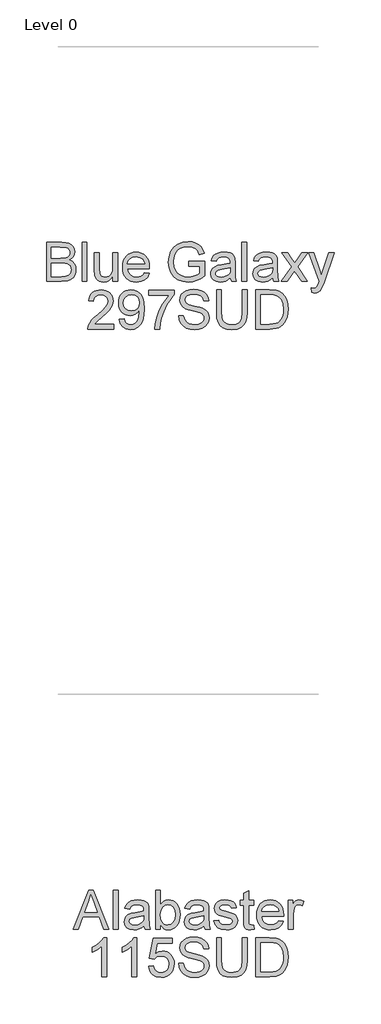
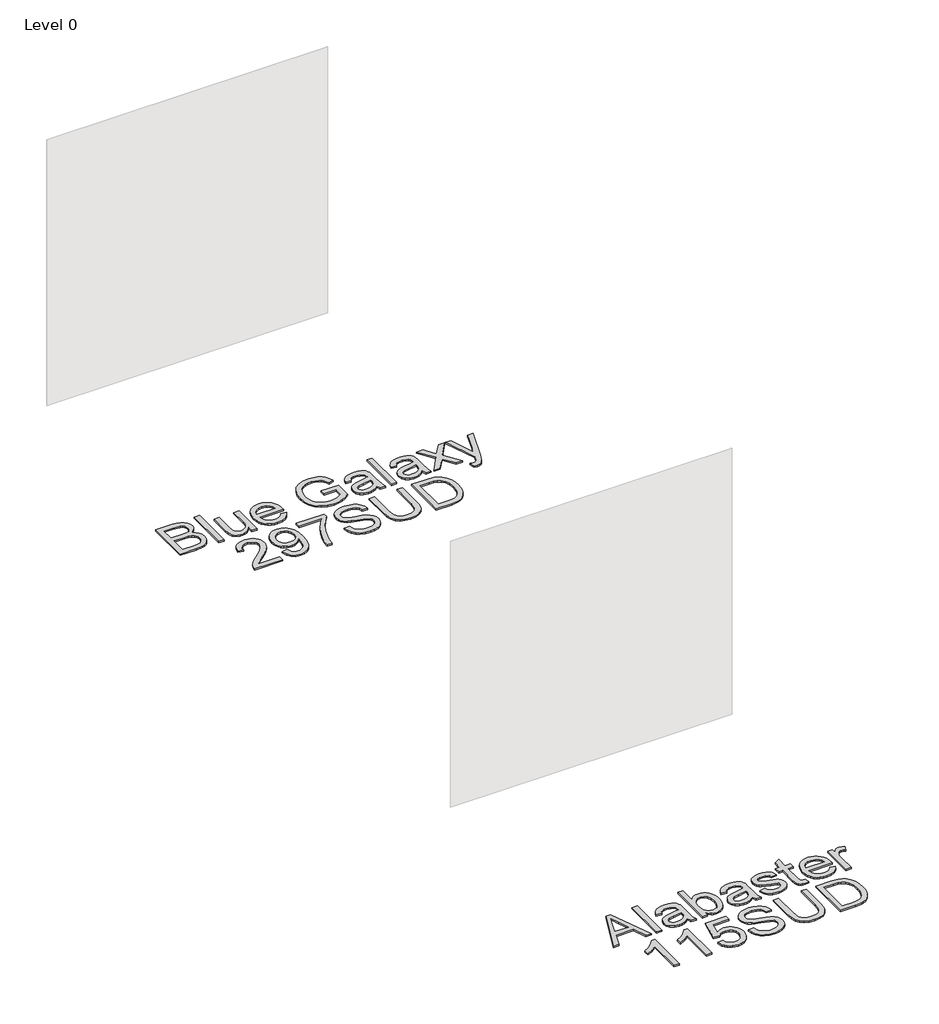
# One storey, part 3 of 37: 2 proxies.
"""IFC4 building model written with IfcOpenShell, lengths in millimetres."""

import ifcopenshell
import ifcopenshell.guid

model = None  # the IFC model being written
_history = None  # IfcOwnerHistory: only IFC2X3 demands one
_inside = {}  # id of a spatial element -> (the spatial element, [elements in it])
_under = {}  # id of a project, library or spatial element -> (it, [spatial elements below it])
_declared = {}  # id of a project -> (the project, [libraries it declares])
_typed = {}  # id of a type object -> (the type object, [elements of that type])
_made_of = {}  # id of a material, layer set ... -> (it, [elements and type objects made of it])


def new_model(schema):
    """Start an empty IFC model of exactly this schema.

    Asked for "IFC4X3", IfcOpenShell would pick the latest addendum, in which some entities
    have other attributes; the version numbers below select the first issue.
    IFC2X3 requires an IfcOwnerHistory on every rooted entity: one is made here for all.
    """
    global model, _history
    if schema == "IFC4X3":
        model = ifcopenshell.file(schema_version=(4, 3, 0, 0))
    else:
        model = ifcopenshell.file(schema=schema)
    _inside.clear()
    _under.clear()
    _declared.clear()
    _typed.clear()
    _made_of.clear()
    _history = None
    if model.schema == "IFC2X3":
        org = make("IfcOrganization", Name="unknown")
        user = make(
            "IfcPersonAndOrganization",
            ThePerson=make("IfcPerson", FamilyName="unknown"),
            TheOrganization=org,
        )
        app = make(
            "IfcApplication",
            ApplicationDeveloper=org,
            Version="unknown",
            ApplicationFullName="unknown",
            ApplicationIdentifier="unknown",
        )
        _history = make(
            "IfcOwnerHistory",
            OwningUser=user,
            OwningApplication=app,
            ChangeAction="ADDED",
            CreationDate=0,
        )
    return model


def make(cls, **values):
    """One entity of the class cls with the attributes given. An attribute that is None is left unset."""
    return model.create_entity(
        cls, **{name: value for name, value in values.items() if value is not None}
    )


def rooted(cls, **values):
    """An entity with a GlobalId (a new one), such as an element, a storey or a relation."""
    return make(cls, GlobalId=ifcopenshell.guid.new(), OwnerHistory=_history, **values)


def si_unit(unit_type, name, prefix=None):
    """IfcSIUnit, for example si_unit("LENGTHUNIT", "METRE", prefix="MILLI")."""
    return make("IfcSIUnit", UnitType=unit_type, Prefix=prefix, Name=name)


def assignment(units):
    """IfcUnitAssignment: the units of a project."""
    return None if units is None else make("IfcUnitAssignment", Units=units)


def point(xyz):
    """IfcCartesianPoint."""
    return None if xyz is None else make("IfcCartesianPoint", Coordinates=xyz)


def direction(xyz):
    """IfcDirection."""
    return None if xyz is None else make("IfcDirection", DirectionRatios=xyz)


def frame(location, z_axis=None, x_axis=None):
    """IfcAxis2Placement3D, a coordinate frame: its origin and axes. An axis left out is left unset."""
    return make(
        "IfcAxis2Placement3D",
        Location=point(location),
        Axis=direction(z_axis),
        RefDirection=direction(x_axis),
    )


def origin():
    """The frame at (0, 0, 0) with its axes left unset."""
    return frame((0.0, 0.0, 0.0))


def origin_with_axes():
    """The frame at (0, 0, 0) with the z axis (0, 0, 1) and the x axis (1, 0, 0) written out."""
    return frame((0.0, 0.0, 0.0), z_axis=(0.0, 0.0, 1.0), x_axis=(1.0, 0.0, 0.0))


def place(relative_to, where):
    """IfcLocalPlacement: puts the frame where relative to a parent placement (None: the world)."""
    return make(
        "IfcLocalPlacement", PlacementRelTo=relative_to, RelativePlacement=where
    )


def context(
    kind, dimensions, precision=None, world=None, true_north=None, identifier=None
):
    """IfcGeometricRepresentationContext, for example the 3D "Model" context."""
    return make(
        "IfcGeometricRepresentationContext",
        ContextIdentifier=identifier,
        ContextType=kind,
        CoordinateSpaceDimension=dimensions,
        Precision=precision,
        WorldCoordinateSystem=world,
        TrueNorth=true_north,
    )


def project(units=None, contexts=None):
    """IfcProject with its units and contexts."""
    return rooted(
        "IfcProject",
        Name="project",
        RepresentationContexts=contexts,
        UnitsInContext=assignment(units),
    )


def spatial(cls, under=None, at=None, **own):
    """A site, building, storey or space (cls), placed at a placement, below another one or the project."""
    s = rooted(cls, ObjectPlacement=at, **own)
    if under is not None:
        _under.setdefault(under.id(), (under, []))[1].append(s)
    return s


def polyline(points):
    """IfcPolyline through the points."""
    return make("IfcPolyline", Points=[point(p) for p in points])


def outline(outer, holes=None, kind="AREA"):
    """IfcArbitraryClosedProfileDef: a profile drawn as a closed curve; with holes, ...WithVoids."""
    if holes is None:
        return make("IfcArbitraryClosedProfileDef", ProfileType=kind, OuterCurve=outer)
    return make(
        "IfcArbitraryProfileDefWithVoids",
        ProfileType=kind,
        OuterCurve=outer,
        InnerCurves=holes,
    )


def extrude(swept, where, along, depth):
    """IfcExtrudedAreaSolid: the profile swept, set in the frame where, extruded along a direction by depth."""
    return make(
        "IfcExtrudedAreaSolid",
        SweptArea=swept,
        Position=where,
        ExtrudedDirection=direction(along),
        Depth=depth,
    )


def shape(context_of_items, identifier, shape_type, items):
    """IfcShapeRepresentation: the items that make up one representation, for example the "Body"."""
    return make(
        "IfcShapeRepresentation",
        ContextOfItems=context_of_items,
        RepresentationIdentifier=identifier,
        RepresentationType=shape_type,
        Items=items,
    )


def made_of(thing, what):
    """Note that an element or type object is made of a material, layer set ...; save() writes the relation."""
    if what is not None:
        _made_of.setdefault(what.id(), (what, []))[1].append(thing)
    return thing


def element(
    cls,
    number,
    at=None,
    inside=None,
    cuts=None,
    type_object=None,
    material=None,
    context=None,
    identifier="Body",
    shape_type=None,
    held_by="IfcProductDefinitionShape",
    body=None,
    shapes=None,
    **own,
):
    """One element of the class cls, such as IfcWall. Its Tag is "e" and its number.

    at: its placement. inside: the storey or other place that contains it. cuts: it is an
    opening in that element (IfcRelVoidsElement). A single representation is given by context,
    identifier, shape_type and body (its items); several are given by shapes. held_by: the class
    of the entity that holds the representations. save() writes the other relations.
    """
    e = rooted(cls, Tag="e%d" % number, ObjectPlacement=at, **own)
    if body is not None:
        shapes = [shape(context, identifier, shape_type, body)]
    if shapes is not None:
        e.Representation = make(held_by, Representations=shapes)
    if inside is not None:
        _inside.setdefault(inside.id(), (inside, []))[1].append(e)
    if cuts is not None:
        rooted(
            "IfcRelVoidsElement", RelatingBuildingElement=cuts, RelatedOpeningElement=e
        )
    if type_object is not None:
        _typed.setdefault(type_object.id(), (type_object, []))[1].append(e)
    return made_of(e, material)


def aggregate(whole, parts):
    """IfcRelAggregates: a whole, such as a stair, and the parts it consists of."""
    return rooted("IfcRelAggregates", RelatingObject=whole, RelatedObjects=parts)


def save(model, path):
    """Write the relations noted so far, then the file.

    IfcRelAggregates (storeys below a building ...), IfcRelContainedInSpatialStructure (elements
    in a storey), IfcRelDefinesByType, IfcRelAssociatesMaterial and IfcRelDeclares: one each for
    every whole, place, type object, material and project.
    """
    for whole, parts in _under.values():
        aggregate(whole, parts)
    for where, things in _inside.values():
        rooted(
            "IfcRelContainedInSpatialStructure",
            RelatedElements=things,
            RelatingStructure=where,
        )
    for kind, things in _typed.values():
        rooted("IfcRelDefinesByType", RelatedObjects=things, RelatingType=kind)
    for what, things in _made_of.values():
        rooted("IfcRelAssociatesMaterial", RelatedObjects=things, RelatingMaterial=what)
    for by, libraries in _declared.values():
        rooted("IfcRelDeclares", RelatingContext=by, RelatedDefinitions=libraries)
    model.write(path)


model = new_model("IFC4")

# Units and contexts
model_context = context("Model", 3, world=origin())
ifc_project = project(units=[si_unit("LENGTHUNIT", "METRE", prefix="MILLI")], contexts=[model_context])

# Site, building, storey
site = spatial("IfcSite", under=ifc_project)
building = spatial("IfcBuilding", under=site)
storey = spatial("IfcBuildingStorey", under=building, Name="Level 0", Elevation=0.0)

# Proxies
placement = place(None, origin())
element("IfcBuildingElementProxy", 1, Name="300mm Arial", ObjectType="300mm Arial", at=placement, inside=storey, context=model_context, shape_type="SweptSolid", body=[
    extrude(outline(polyline([(-10540.7659844, -41912.860494), (-10540.7659844, -41611.4915635), (-10425.7660727, -41611.4915635), (-10394.1374182, -41613.7080526), (-10369.4433393, -41620.3575196), (-10350.5158106, -41631.6055116), (-10336.1868069, -41647.6175755), (-10327.164501, -41666.4531336), (-10324.1570657, -41686.1716086), (-10326.6862544, -41704.317388), (-10334.2738205, -41721.3779155), (-10346.9749464, -41736.3047274), (-10364.8448143, -41748.0493601), (-10343.4984616, -41759.1961846), (-10327.725521, -41776.1555446), (-10317.9858452, -41797.8054), (-10314.7392866, -41823.0237108), (-10316.9557756, -41844.0389697), (-10323.6052427, -41863.5275184), (-10333.5288595, -41880.1006023), (-10345.5677978, -41892.3694668), (-10360.3106687, -41901.253817), (-10378.3460835, -41907.6733578), (-10426.6489895, -41912.860494), (-10540.7659844, -41912.860494)]), holes=[polyline([(-10503.0948681, -41733.9226915), (-10434.300935, -41733.9226915), (-10394.1282211, -41730.68533), (-10380.0659319, -41725.1027207), (-10369.9583741, -41716.7426024), (-10363.86073, -41705.7337336), (-10361.828182, -41692.2048733), (-10363.7227742, -41679.071486), (-10369.4065511, -41667.630356), (-10378.621995, -41658.7000206), (-10391.1115888, -41653.0990172), (-10439.5248593, -41649.1626798), (-10503.0948681, -41649.1626798), (-10503.0948681, -41733.9226915)]), polyline([(-10503.0948681, -41875.1893777), (-10425.8396491, -41875.1893777), (-10397.8806175, -41873.7178497), (-10374.2258052, -41865.5140812), (-10358.5540322, -41848.7754504), (-10353.9463102, -41836.9480443), (-10352.4104029, -41823.3915928), (-10354.2130247, -41807.6462434), (-10359.62089, -41794.1081859), (-10369.0662602, -41783.5223815), (-10382.9813967, -41776.6337912), (-10402.6906746, -41772.8538037), (-10429.5184691, -41771.5938078), (-10503.0948681, -41771.5938078), (-10503.0948681, -41875.1893777)])]), origin_with_axes(), (0.0, 0.0, 1.0), 10.0),
    extrude(outline(polyline([(-10267.6503912, -41912.860494), (-10267.6503912, -41611.4915635), (-10229.9792749, -41611.4915635), (-10229.9792749, -41912.860494), (-10267.6503912, -41912.860494)])), origin_with_axes(), (0.0, 0.0, 1.0), 10.0),
    extrude(outline(polyline([(-10032.2059143, -41912.860494), (-10032.2059143, -41874.8214957), (-10045.8359422, -41893.5236966), (-10061.7100503, -41906.8824116), (-10079.8282386, -41914.8976405), (-10100.190507, -41917.5693835), (-10118.5386215, -41915.6931853), (-10135.6175431, -41910.0645908), (-10149.9465468, -41901.6033049), (-10160.0449076, -41891.2290327), (-10171.2653085, -41863.4907302), (-10173.4726004, -41828.4683643), (-10173.4726004, -41691.5426857), (-10135.8014841, -41691.5426857), (-10135.8014841, -41810.7364521), (-10133.5206158, -41849.1433324), (-10128.029977, -41861.9548229), (-10118.6213949, -41871.6944987), (-10105.9202691, -41877.8473251), (-10090.5519987, -41879.8982672), (-10074.3008116, -41877.8013398), (-10059.0980881, -41871.5105577), (-10046.5625091, -41861.605335), (-10038.3127554, -41848.6650858), (-10033.7326246, -41830.9423707), (-10032.2059143, -41806.6897502), (-10032.2059143, -41691.5426857), (-9994.534798, -41691.5426857), (-9994.534798, -41912.860494), (-10032.2059143, -41912.860494)])), origin_with_axes(), (0.0, 0.0, 1.0), 10.0),
    extrude(outline(polyline([(-9787.7851167, -41846.9360404), (-9750.8497644, -41851.64493), (-9764.1578955, -41879.4752029), (-9785.3938837, -41900.2789297), (-9814.0794823, -41913.2467701), (-9849.7364447, -41917.5693835), (-9873.1107469, -41915.7046817), (-9893.9374664, -41910.1105761), (-9912.216603, -41900.7870668), (-9927.9481568, -41887.7341537), (-9940.598699, -41871.3151204), (-9949.6348005, -41851.8932503), (-9955.0564614, -41829.4685435), (-9956.8636817, -41804.0409998), (-9955.0380673, -41777.7512327), (-9949.5612241, -41754.5792656), (-9940.4331521, -41734.5250983), (-9927.6538513, -41717.5887309), (-9911.9636842, -41704.133447), (-9894.1030133, -41694.5225298), (-9874.0718387, -41688.7559796), (-9851.8701602, -41686.8337961), (-9830.3835525, -41688.751381), (-9810.9524853, -41694.5041357), (-9793.5769588, -41704.0920602), (-9778.256973, -41717.5151545), (-9765.7512844, -41734.4147337), (-9756.8186497, -41754.4321128), (-9751.4590689, -41777.5672917), (-9749.672542, -41803.8202706), (-9749.8932712, -41813.9738137), (-9919.1925654, -41813.9738137), (-9912.671857, -41842.1719686), (-9897.5243158, -41862.902119), (-9875.6629283, -41875.6492302), (-9849.0006807, -41879.8982672), (-9828.9511119, -41877.9300985), (-9812.0653284, -41872.0255925), (-9798.3433299, -41861.8168672), (-9787.7851167, -41846.9360404)]), holes=[polyline([(-9919.1925654, -41776.3026974), (-9787.3436583, -41776.3026974), (-9792.4388239, -41756.4002814), (-9802.4268201, -41742.1632482), (-9824.3893752, -41728.9194964), (-9852.017313, -41724.5049125), (-9877.4103678, -41728.0273826), (-9898.4072326, -41738.5947929), (-9913.0029508, -41755.0667092), (-9919.1925654, -41776.3026974)])]), origin_with_axes(), (0.0, 0.0, 1.0), 10.0),
    extrude(outline(polyline([(-9448.3036115, -41795.1382555), (-9448.3036115, -41757.4671392), (-9325.8724835, -41757.4671392), (-9325.8724835, -41870.1126061), (-9355.6249399, -41890.8059684), (-9386.3154954, -41905.6500069), (-9417.8705735, -41914.5895394), (-9450.2165979, -41917.5693835), (-9492.4770421, -41912.8329028), (-9530.6723903, -41898.6234608), (-9562.4022123, -41875.437698), (-9585.2660783, -41843.7722553), (-9599.0892443, -41805.7884393), (-9603.6969663, -41763.6475567), (-9599.1076384, -41721.2031715), (-9585.3396547, -41681.7202364), (-9562.9632324, -41648.6016598), (-9532.5485884, -41625.2503502), (-9495.5028715, -41611.399593), (-9453.2332303, -41606.782674), (-9422.202384, -41609.4590155), (-9394.2985346, -41617.4880401), (-9370.8000722, -41630.2903335), (-9352.9853866, -41647.2864817), (-9339.8060141, -41669.295022), (-9330.2134911, -41697.134492), (-9364.9415514, -41706.9201531), (-9372.6946645, -41687.0637224), (-9382.1216406, -41672.0817281), (-9394.5928402, -41660.7877509), (-9411.4786238, -41651.9953712), (-9431.610966, -41646.3391855), (-9453.8218415, -41644.4537903), (-9479.8219015, -41646.4863383), (-9502.051171, -41652.5839824), (-9520.4268767, -41661.9833674), (-9534.866245, -41673.9211381), (-9554.2536261, -41702.9470275), (-9563.082794, -41731.3843058), (-9566.02585, -41762.1024524), (-9562.4849858, -41798.1272967), (-9551.8623932, -41827.7693885), (-9534.4799689, -41850.8171955), (-9510.6596097, -41867.0591856), (-9482.7833515, -41876.6884968), (-9453.2332303, -41879.8982672), (-9427.1411998, -41877.4794431), (-9401.6929627, -41870.2229707), (-9379.5924519, -41860.2257775), (-9363.5435998, -41849.5847908), (-9363.5435998, -41795.1382555), (-9448.3036115, -41795.1382555)])), origin_with_axes(), (0.0, 0.0, 1.0), 10.0),
    extrude(outline(polyline([(-9128.0991229, -41884.6071568), (-9146.0977496, -41900.0398064), (-9164.6298051, -41910.1381672), (-9184.1183538, -41915.7115794), (-9204.9864599, -41917.5693835), (-9236.4679617, -41913.0996173), (-9259.6905126, -41899.6903186), (-9274.0103193, -41879.3280501), (-9278.7835882, -41853.9993748), (-9276.9809664, -41838.3827841), (-9271.5731011, -41824.2009331), (-9263.2313768, -41812.0608273), (-9252.6271783, -41802.5694718), (-9226.2500392, -41790.2086368), (-9193.6556945, -41784.5432541), (-9155.1384496, -41778.5835657), (-9128.3198521, -41771.5938078), (-9128.0991229, -41763.2060983), (-9130.692691, -41746.3938912), (-9138.4733952, -41735.3942195), (-9155.8742136, -41727.2272392), (-9180.1176371, -41724.5049125), (-9202.5584388, -41726.3167313), (-9218.2302118, -41731.7521878), (-9228.9171837, -41741.8045633), (-9236.4035823, -41757.4671392), (-9274.0746986, -41752.7582497), (-9267.5355962, -41732.1568579), (-9257.7775262, -41715.9700502), (-9243.8899809, -41703.590821), (-9224.9624523, -41694.4121652), (-9201.8134777, -41688.7283884), (-9175.2615947, -41686.8337961), (-9149.7949636, -41688.5076592), (-9129.6074391, -41693.5292485), (-9114.3863216, -41701.0800264), (-9103.8189113, -41710.3414556), (-9096.8107592, -41721.7917827), (-9092.2674166, -41735.9092543), (-9090.4280066, -41768.8714811), (-9090.4280066, -41815.7396473), (-9088.5150203, -41881.1858542), (-9081.0102276, -41912.860494), (-9118.6813439, -41912.860494), (-9128.0991229, -41884.6071568)]), holes=[polyline([(-9128.0991229, -41809.2649241), (-9188.8732285, -41820.8164188), (-9221.2836323, -41826.9232599), (-9235.9621239, -41836.8560738), (-9241.1124719, -41851.3506244), (-9238.3073716, -41862.5526311), (-9229.892071, -41871.7312869), (-9216.0505109, -41877.8565221), (-9196.9666324, -41879.8982672), (-9176.7331227, -41877.64499), (-9158.8540577, -41870.8851583), (-9144.3595071, -41860.9247533), (-9134.2795405, -41849.069756), (-9129.8097742, -41836.8560738), (-9128.3198521, -41819.933502), (-9128.0991229, -41809.2649241)])]), origin_with_axes(), (0.0, 0.0, 1.0), 10.0),
    extrude(outline(polyline([(-9038.6302217, -41912.860494), (-9038.6302217, -41611.4915635), (-9000.9591054, -41611.4915635), (-9000.9591054, -41912.860494), (-9038.6302217, -41912.860494)])), origin_with_axes(), (0.0, 0.0, 1.0), 10.0),
    extrude(outline(polyline([(-8803.1857448, -41884.6071568), (-8821.1843714, -41900.0398064), (-8839.7164269, -41910.1381672), (-8859.2049756, -41915.7115794), (-8880.0730818, -41917.5693835), (-8911.5545835, -41913.0996173), (-8934.7771345, -41899.6903186), (-8949.0969411, -41879.3280501), (-8953.87021, -41853.9993748), (-8952.0675882, -41838.3827841), (-8946.6597229, -41824.2009331), (-8938.3179987, -41812.0608273), (-8927.7138002, -41802.5694718), (-8901.3366611, -41790.2086368), (-8868.7423163, -41784.5432541), (-8830.2250714, -41778.5835657), (-8803.406474, -41771.5938078), (-8803.1857448, -41763.2060983), (-8805.7793129, -41746.3938912), (-8813.5600171, -41735.3942195), (-8830.9608354, -41727.2272392), (-8855.2042589, -41724.5049125), (-8877.6450606, -41726.3167313), (-8893.3168336, -41731.7521878), (-8904.0038056, -41741.8045633), (-8911.4902042, -41757.4671392), (-8949.1613205, -41752.7582497), (-8942.622218, -41732.1568579), (-8932.8641481, -41715.9700502), (-8918.9766028, -41703.590821), (-8900.0490741, -41694.4121652), (-8876.9000996, -41688.7283884), (-8850.3482166, -41686.8337961), (-8824.8815855, -41688.5076592), (-8804.694061, -41693.5292485), (-8789.4729434, -41701.0800264), (-8778.9055331, -41710.3414556), (-8771.8973811, -41721.7917827), (-8767.3540385, -41735.9092543), (-8765.5146285, -41768.8714811), (-8765.5146285, -41815.7396473), (-8763.6016421, -41881.1858542), (-8756.0968494, -41912.860494), (-8793.7679657, -41912.860494), (-8803.1857448, -41884.6071568)]), holes=[polyline([(-8803.1857448, -41809.2649241), (-8863.9598504, -41820.8164188), (-8896.3702542, -41826.9232599), (-8911.0487458, -41836.8560738), (-8916.1990937, -41851.3506244), (-8913.3939935, -41862.5526311), (-8904.9786929, -41871.7312869), (-8891.1371328, -41877.8565221), (-8872.0532543, -41879.8982672), (-8851.8197446, -41877.64499), (-8833.9406796, -41870.8851583), (-8819.446129, -41860.9247533), (-8809.3661623, -41849.069756), (-8804.8963961, -41836.8560738), (-8803.406474, -41819.933502), (-8803.1857448, -41809.2649241)])]), origin_with_axes(), (0.0, 0.0, 1.0), 10.0),
    extrude(outline(polyline([(-8737.2612913, -41912.860494), (-8656.7687107, -41801.6129786), (-8732.5524017, -41691.5426857), (-8687.2293399, -41691.5426857), (-8650.6618696, -41744.517693), (-8633.592145, -41769.5336687), (-8618.8032888, -41749.0794297), (-8577.159047, -41691.5426857), (-8531.8359852, -41691.5426857), (-8611.4456489, -41801.6129786), (-8534.7790411, -41912.860494), (-8580.1021029, -41912.860494), (-8626.2345051, -41845.9795473), (-8634.695791, -41833.765865), (-8691.9382295, -41912.860494), (-8737.2612913, -41912.860494)])), origin_with_axes(), (0.0, 0.0, 1.0), 10.0),
    extrude(outline(polyline([(-8501.8168143, -41997.6205057), (-8506.5257039, -41961.3473409), (-8487.3958401, -41964.6582789), (-8469.5167752, -41960.5012124), (-8458.5538917, -41948.9129295), (-8448.2531958, -41921.1746271), (-8445.3101399, -41912.0511536), (-8525.361262, -41691.5426857), (-8485.6300066, -41691.5426857), (-8443.1764243, -41814.4152721), (-8428.3875681, -41863.5643066), (-8413.5987119, -41820.1542312), (-8369.9679073, -41691.5426857), (-8330.5309574, -41691.5426857), (-8407.5654472, -41918.1579947), (-8427.5782277, -41967.3070293), (-8437.8237413, -41982.9971964), (-8449.4304182, -41993.8681093), (-8462.9132934, -42000.2140737), (-8478.7874014, -42002.3293952), (-8501.8168143, -41997.6205057)])), origin_with_axes(), (0.0, 0.0, 1.0), 10.0),
    extrude(outline(polyline([(-10025.14258, -42241.1138312), (-10025.14258, -42278.7849475), (-10222.9159406, -42278.7849475), (-10218.8692386, -42252.8124787), (-10209.5802183, -42232.5145896), (-10195.9869785, -42212.8237058), (-10176.3236859, -42192.213117), (-10148.8245068, -42169.156113), (-10108.1735463, -42133.0484951), (-10083.78297, -42106.3954446), (-10071.5876819, -42084.7639833), (-10067.5225858, -42063.7211331), (-10071.3577556, -42044.8579838), (-10082.863265, -42029.1770138), (-10100.5491919, -42018.6096035), (-10122.9256143, -42015.0871334), (-10146.4240767, -42018.52683), (-10164.6802207, -42028.84592), (-10176.4616416, -42045.2350629), (-10180.5359347, -42066.8849183), (-10218.207051, -42062.1760288), (-10209.0743805, -42025.7373171), (-10200.5280219, -42011.2013798), (-10189.3283144, -41999.1210548), (-10175.7327754, -41989.6251008), (-10159.9989224, -41982.8422765), (-10122.1162739, -41977.4160171), (-10101.9264502, -41978.9243332), (-10083.957714, -41983.4492818), (-10068.2100653, -41990.9908627), (-10054.6835042, -42001.549076), (-10043.819489, -42014.3421723), (-10036.0594782, -42028.5884026), (-10031.4034717, -42044.2877667), (-10029.8514695, -42061.4402648), (-10031.5253326, -42079.4572855), (-10036.5469218, -42097.1616065), (-10045.4588632, -42115.1694302), (-10058.8037825, -42134.0969588), (-10080.0765589, -42156.6941104), (-10112.7720712, -42185.7108027), (-10156.1085703, -42221.9471793), (-10173.1047184, -42241.1138312), (-10025.14258, -42241.1138312)])), origin_with_axes(), (0.0, 0.0, 1.0), 10.0),
    extrude(outline(polyline([(-9982.7625741, -42203.4427149), (-9945.0914578, -42198.7338254), (-9938.6535229, -42220.1169663), (-9928.168886, -42234.6758963), (-9913.8950646, -42243.0360146), (-9896.0895761, -42245.8227207), (-9880.1143004, -42244.029296), (-9865.5921587, -42238.6490218), (-9853.5256292, -42230.2705094), (-9844.9171905, -42219.4823699), (-9832.5931437, -42186.7408723), (-9827.1484902, -42143.0364913), (-9827.3692194, -42135.6788514), (-9840.4198331, -42151.6081418), (-9857.4987548, -42164.2264942), (-9877.3735796, -42172.4486568), (-9898.8119028, -42175.1893777), (-9916.7070626, -42173.5155146), (-9933.1628841, -42168.4939254), (-9948.1793673, -42160.12461), (-9961.7565122, -42148.4075684), (-9973.0068035, -42133.9544045), (-9981.0427258, -42117.3767221), (-9985.8642792, -42098.6745212), (-9987.4714637, -42077.8478018), (-9985.7861043, -42056.326705), (-9980.7300261, -42037.0129003), (-9972.3032292, -42019.9063875), (-9960.5057134, -42005.0071667), (-9946.1698119, -41992.9360387), (-9930.1278577, -41984.3138045), (-9912.3798507, -41979.1404639), (-9892.9257909, -41977.4160171), (-9864.8288035, -41981.3523544), (-9839.2518078, -41993.1613665), (-9817.8594698, -42012.254442), (-9802.3164555, -42038.0429699), (-9792.8526912, -42073.6907352), (-9789.6981031, -42122.3615232), (-9792.8434941, -42173.96617), (-9802.2796673, -42213.8537754), (-9817.9238491, -42243.8269609), (-9839.6932662, -42265.6883485), (-9866.6498194, -42279.0424649), (-9897.8554096, -42283.4938371), (-9930.0634783, -42278.2423216), (-9955.7600357, -42262.4877751), (-9973.7310711, -42237.2234791), (-9982.7625741, -42203.4427149)]), holes=[polyline([(-9827.3692194, -42076.964885), (-9831.4343154, -42051.4338745), (-9843.6296036, -42031.788976), (-9862.5571322, -42019.262594), (-9886.8189498, -42015.0871334), (-9911.9820783, -42019.5844908), (-9932.1420116, -42033.0765629), (-9945.3857634, -42053.7239399), (-9949.8003474, -42079.6872117), (-9945.6248867, -42102.964945), (-9933.0985048, -42121.4418182), (-9913.4352121, -42133.4991506), (-9887.8490194, -42137.5182614), (-9863.7803398, -42133.4991506), (-9844.4021557, -42121.4418182), (-9831.6274535, -42102.2843633), (-9827.3692194, -42076.964885)])]), origin_with_axes(), (0.0, 0.0, 1.0), 10.0),
    extrude(outline(polyline([(-9756.7358763, -42019.7960229), (-9756.7358763, -41982.1249066), (-9558.9625157, -41982.1249066), (-9558.9625157, -42012.5855358), (-9587.1514736, -42048.2608923), (-9615.06452, -42093.6299393), (-9639.6850225, -42144.5540045), (-9657.9963488, -42196.8944154), (-9666.9726695, -42236.0554538), (-9671.9758646, -42278.7849475), (-9709.6469809, -42278.7849475), (-9705.5726878, -42239.9550029), (-9694.6741837, -42193.8042066), (-9677.2457742, -42144.8850983), (-9653.5817648, -42097.7502177), (-9625.953827, -42055.1402856), (-9596.633632, -42019.7960229), (-9756.7358763, -42019.7960229)])), origin_with_axes(), (0.0, 0.0, 1.0), 10.0),
    extrude(outline(polyline([(-9526.0002889, -42175.1893777), (-9488.3291726, -42175.1893777), (-9484.0065592, -42196.0942721), (-9476.1890668, -42212.8972822), (-9463.9937786, -42226.2330045), (-9446.537778, -42236.7360355), (-9425.2006222, -42243.5510494), (-9401.361869, -42245.8227207), (-9380.3742011, -42244.1028724), (-9361.9984955, -42238.9433274), (-9347.1084717, -42230.7763471), (-9336.5778496, -42220.0341929), (-9330.3146586, -42207.700949), (-9328.2269283, -42194.7606998), (-9329.7904268, -42182.1515444), (-9334.4809222, -42171.2530403), (-9344.0090659, -42161.9548229), (-9360.0855091, -42154.1465276), (-9414.9367146, -42139.7623415), (-9450.9431649, -42130.2433949), (-9473.9817748, -42121.1843008), (-9492.7345595, -42108.510766), (-9506.0242966, -42093.1516928), (-9513.9429565, -42075.4381747), (-9516.5825098, -42055.7013056), (-9513.3175571, -42033.637583), (-9503.522699, -42013.0637824), (-9487.4554529, -41995.6261758), (-9465.3733361, -41982.9710352), (-9438.8674384, -41975.2731044), (-9409.5288492, -41972.7071275), (-9377.7438449, -41975.3926661), (-9349.931966, -41983.4492818), (-9327.0864941, -41996.7114277), (-9310.2007105, -42015.013557), (-9299.5137386, -42037.2152354), (-9295.2647015, -42062.1760288), (-9332.9358179, -42062.1760288), (-9339.8519994, -42039.6984389), (-9354.2729736, -42023.4748429), (-9376.8057458, -42013.6523936), (-9408.0573213, -42010.3782438), (-9440.0446607, -42013.6156054), (-9461.9888218, -42023.3276901), (-9474.6807506, -42037.6199056), (-9478.9113935, -42054.5976597), (-9475.9131553, -42069.0738162), (-9466.9184405, -42080.7172813), (-9445.6548612, -42091.1283418), (-9405.4085709, -42101.7601314), (-9363.8746936, -42111.8584922), (-9338.7483534, -42120.669266), (-9317.2732419, -42134.3360821), (-9302.2912477, -42151.2034716), (-9293.4896709, -42171.0874934), (-9290.555812, -42193.8042066), (-9293.9311293, -42217.0267576), (-9304.0570812, -42238.869751), (-9320.5198005, -42257.668521), (-9342.9054199, -42271.7584014), (-9369.8251849, -42280.5599781), (-9399.890341, -42283.4938371), (-9436.7981021, -42280.3300519), (-9467.1759579, -42270.8386964), (-9491.3733961, -42254.9829824), (-9509.7399047, -42232.7261217), (-9521.5305227, -42205.6132187), (-9526.0002889, -42175.1893777)])), origin_with_axes(), (0.0, 0.0, 1.0), 10.0),
    extrude(outline(polyline([(-9036.2757769, -41977.4160171), (-8998.6046606, -41977.4160171), (-8998.6046606, -42151.277048), (-9001.1614405, -42191.9923878), (-9008.8317801, -42223.3451308), (-9023.1607838, -42247.533372), (-9045.693556, -42266.7552063), (-9076.485279, -42279.3091794), (-9115.5911351, -42283.4938371), (-9153.8416655, -42279.8518053), (-9184.4218564, -42268.92571), (-9207.3409047, -42251.0926303), (-9222.6080075, -42226.7296452), (-9231.188855, -42194.052527), (-9234.0491375, -42151.277048), (-9234.0491375, -41977.4160171), (-9196.3780212, -41977.4160171), (-9196.3780212, -42149.9526728), (-9194.5202172, -42183.8070134), (-9188.9468049, -42207.3790523), (-9178.8484442, -42223.7038158), (-9163.4157945, -42235.8163305), (-9143.2926493, -42243.3211232), (-9119.1228023, -42245.8227207), (-9080.8078925, -42240.8747079), (-9066.4650932, -42234.6896919), (-9055.3320643, -42226.0306694), (-9046.9949386, -42213.8537754), (-9041.0398488, -42197.1151446), (-9036.2757769, -42149.9526728), (-9036.2757769, -41977.4160171)])), origin_with_axes(), (0.0, 0.0, 1.0), 10.0),
    extrude(outline(polyline([(-8932.6802071, -42278.7849475), (-8932.6802071, -41977.4160171), (-8828.7167553, -41977.4160171), (-8774.9324076, -41981.7570246), (-8750.9097133, -41990.12634), (-8730.6394153, -42003.3149095), (-8709.7989003, -42026.270746), (-8694.9548618, -42054.8183889), (-8686.0705116, -42088.406015), (-8683.1090616, -42126.4818015), (-8685.1140184, -42158.8278259), (-8691.1288891, -42187.2926953), (-8700.2891507, -42211.5269217), (-8711.7302808, -42231.1810173), (-8724.9004562, -42246.6964405), (-8739.247854, -42258.5146496), (-8755.7197704, -42267.2794381), (-8775.2635014, -42273.6345996), (-8823.7135601, -42278.7849475), (-8932.6802071, -42278.7849475)]), holes=[polyline([(-8895.0090908, -42241.1138312), (-8828.3488733, -42241.1138312), (-8800.7761177, -42239.7526678), (-8779.8620263, -42235.6691777), (-8764.0798887, -42229.1024841), (-8751.9029947, -42220.2917103), (-8738.8155927, -42203.9853408), (-8728.9839464, -42182.8781114), (-8722.83112, -42156.8780514), (-8720.7801779, -42125.8931903), (-8724.7992887, -42084.8375597), (-8736.8566211, -42054.5240833), (-8754.6713067, -42033.7019623), (-8775.9624772, -42021.1203981), (-8797.6307267, -42016.5954496), (-8829.3789429, -42015.0871334), (-8895.0090908, -42015.0871334), (-8895.0090908, -42241.1138312)])]), origin_with_axes(), (0.0, 0.0, 1.0), 10.0),
])
element("IfcBuildingElementProxy", 2, Name="300mm Arial", ObjectType="300mm Arial", at=placement, inside=storey, context=model_context, shape_type="SweptSolid", body=[
    extrude(outline(polyline([(-10335.7085603, -46892.860494), (-10215.4111479, -46591.4915635), (-10183.3318379, -46591.4915635), (-10063.0344255, -46892.860494), (-10102.8392574, -46892.860494), (-10137.3465885, -46798.6827032), (-10261.4699737, -46798.6827032), (-10295.9037284, -46892.860494), (-10335.7085603, -46892.860494)]), holes=[polyline([(-10247.6376107, -46761.0115869), (-10151.1053751, -46761.0115869), (-10178.2550664, -46686.9201531), (-10199.3714929, -46629.1626798), (-10218.1334746, -46680.44543), (-10247.6376107, -46761.0115869)])]), origin_with_axes(), (0.0, 0.0, 1.0), 10.0),
    extrude(outline(polyline([(-10027.4970247, -46892.860494), (-10027.4970247, -46591.4915635), (-9989.8259084, -46591.4915635), (-9989.8259084, -46892.860494), (-10027.4970247, -46892.860494)])), origin_with_axes(), (0.0, 0.0, 1.0), 10.0),
    extrude(outline(polyline([(-9792.0525478, -46864.6071568), (-9810.0511744, -46880.0398064), (-9828.58323, -46890.1381672), (-9848.0717786, -46895.7115794), (-9868.9398848, -46897.5693835), (-9900.4213866, -46893.0996173), (-9923.6439375, -46879.6903186), (-9937.9637442, -46859.3280501), (-9942.7370131, -46833.9993748), (-9940.9343913, -46818.3827841), (-9935.526526, -46804.2009331), (-9927.1848017, -46792.0608273), (-9916.5806032, -46782.5694718), (-9890.2034641, -46770.2086368), (-9857.6091194, -46764.5432541), (-9819.0918745, -46758.5835657), (-9792.273277, -46751.5938078), (-9792.0525478, -46743.2060983), (-9794.6461159, -46726.3938912), (-9802.4268201, -46715.3942195), (-9819.8276385, -46707.2272392), (-9844.0710619, -46704.5049125), (-9866.5118637, -46706.3167313), (-9882.1836366, -46711.7521878), (-9892.8706086, -46721.8045633), (-9900.3570072, -46737.4671392), (-9938.0281235, -46732.7582497), (-9931.4890211, -46712.1568579), (-9921.7309511, -46695.9700502), (-9907.8434058, -46683.590821), (-9888.9158772, -46674.4121652), (-9865.7669026, -46668.7283884), (-9839.2150196, -46666.8337961), (-9813.7483885, -46668.5076592), (-9793.560864, -46673.5292485), (-9778.3397465, -46681.0800264), (-9767.7723361, -46690.3414556), (-9760.7641841, -46701.7917827), (-9756.2208415, -46715.9092543), (-9754.3814315, -46748.8714811), (-9754.3814315, -46795.7396473), (-9752.4684452, -46861.1858542), (-9744.9636524, -46892.860494), (-9782.6347688, -46892.860494), (-9792.0525478, -46864.6071568)]), holes=[polyline([(-9792.0525478, -46789.2649241), (-9852.8266534, -46800.8164188), (-9885.2370572, -46806.9232599), (-9899.9155488, -46816.8560738), (-9905.0658967, -46831.3506244), (-9902.2607965, -46842.5526311), (-9893.8454959, -46851.7312869), (-9880.0039358, -46857.8565221), (-9860.9200573, -46859.8982672), (-9840.6865476, -46857.64499), (-9822.8074826, -46850.8851583), (-9808.312932, -46840.9247533), (-9798.2329654, -46829.069756), (-9793.7631991, -46816.8560738), (-9792.273277, -46799.933502), (-9792.0525478, -46789.2649241)])]), origin_with_axes(), (0.0, 0.0, 1.0), 10.0),
    extrude(outline(polyline([(-9664.9125303, -46892.860494), (-9702.5836466, -46892.860494), (-9702.5836466, -46591.4915635), (-9664.9125303, -46591.4915635), (-9664.9125303, -46703.2541137), (-9652.5241041, -46687.3202248), (-9638.5353912, -46675.9388755), (-9622.9463917, -46669.110066), (-9605.7571055, -46666.8337961), (-9586.3513302, -46668.8847383), (-9568.0124128, -46675.0375646), (-9551.7888168, -46684.9059992), (-9538.729006, -46698.1037657), (-9528.4926894, -46714.5021057), (-9520.7395764, -46733.9722603), (-9515.8559429, -46755.7048891), (-9514.2280651, -46778.8906519), (-9515.9134245, -46805.64487), (-9520.9695026, -46829.1801206), (-9529.3962996, -46849.4964038), (-9541.1938153, -46866.5937195), (-9555.3549729, -46880.1455725), (-9570.8726953, -46889.8254675), (-9587.7469825, -46895.6334045), (-9605.9778347, -46897.5693835), (-9623.7327395, -46895.0723845), (-9639.4734903, -46887.5813873), (-9653.2000873, -46875.0963921), (-9664.9125303, -46857.6173988), (-9664.9125303, -46892.860494)]), holes=[polyline([(-9664.9125303, -46780.6564855), (-9662.3373563, -46812.0736078), (-9654.6118344, -46833.3371872), (-9645.4837624, -46844.9576597), (-9634.8749654, -46853.2579972), (-9622.7854433, -46858.2381997), (-9609.2151962, -46859.8982672), (-9587.4733703, -46855.0054367), (-9568.8953296, -46840.3269451), (-9556.1482184, -46815.9547629), (-9551.8991814, -46781.9808606), (-9555.9734745, -46747.5103177), (-9568.1963538, -46723.414047), (-9586.1949804, -46709.2321961), (-9607.5965154, -46704.5049125), (-9629.3383414, -46709.397743), (-9647.9163821, -46724.0762346), (-9660.6634933, -46748.0069584), (-9664.9125303, -46780.6564855)])]), origin_with_axes(), (0.0, 0.0, 1.0), 10.0),
    extrude(outline(polyline([(-9330.5813731, -46864.6071568), (-9348.5799997, -46880.0398064), (-9367.1120552, -46890.1381672), (-9386.6006039, -46895.7115794), (-9407.4687101, -46897.5693835), (-9438.9502118, -46893.0996173), (-9462.1727628, -46879.6903186), (-9476.4925694, -46859.3280501), (-9481.2658383, -46833.9993748), (-9479.4632165, -46818.3827841), (-9474.0553512, -46804.2009331), (-9465.713627, -46792.0608273), (-9455.1094284, -46782.5694718), (-9428.7322894, -46770.2086368), (-9396.1379446, -46764.5432541), (-9357.6206997, -46758.5835657), (-9330.8021023, -46751.5938078), (-9330.5813731, -46743.2060983), (-9333.1749411, -46726.3938912), (-9340.9556453, -46715.3942195), (-9358.3564637, -46707.2272392), (-9382.5998872, -46704.5049125), (-9405.0406889, -46706.3167313), (-9420.7124619, -46711.7521878), (-9431.3994339, -46721.8045633), (-9438.8858325, -46737.4671392), (-9476.5569488, -46732.7582497), (-9470.0178463, -46712.1568579), (-9460.2597764, -46695.9700502), (-9446.3722311, -46683.590821), (-9427.4447024, -46674.4121652), (-9404.2957279, -46668.7283884), (-9377.7438449, -46666.8337961), (-9352.2772137, -46668.5076592), (-9332.0896893, -46673.5292485), (-9316.8685717, -46681.0800264), (-9306.3011614, -46690.3414556), (-9299.2930094, -46701.7917827), (-9294.7496668, -46715.9092543), (-9292.9102568, -46748.8714811), (-9292.9102568, -46795.7396473), (-9290.9972704, -46861.1858542), (-9283.4924777, -46892.860494), (-9321.163594, -46892.860494), (-9330.5813731, -46864.6071568)]), holes=[polyline([(-9330.5813731, -46789.2649241), (-9391.3554787, -46800.8164188), (-9423.7658825, -46806.9232599), (-9438.4443741, -46816.8560738), (-9443.594722, -46831.3506244), (-9440.7896218, -46842.5526311), (-9432.3743211, -46851.7312869), (-9418.5327611, -46857.8565221), (-9399.4488826, -46859.8982672), (-9379.2153728, -46857.64499), (-9361.3363079, -46850.8851583), (-9346.8417573, -46840.9247533), (-9336.7617906, -46829.069756), (-9332.2920244, -46816.8560738), (-9330.8021023, -46799.933502), (-9330.5813731, -46789.2649241)])]), origin_with_axes(), (0.0, 0.0, 1.0), 10.0),
    extrude(outline(polyline([(-9255.2391405, -46826.9360404), (-9217.5680242, -46822.2271509), (-9211.6267299, -46838.3403823), (-9200.1304176, -46850.1861825), (-9183.0055107, -46857.470246), (-9160.1784329, -46859.8982672), (-9137.6272666, -46857.6725811), (-9121.7715526, -46850.9955229), (-9112.3905617, -46841.3202265), (-9109.2635648, -46830.0998256), (-9112.4089558, -46820.4981055), (-9121.845129, -46813.1772538), (-9160.6198913, -46802.4350996), (-9217.347295, -46784.0042116), (-9231.7038898, -46774.7427824), (-9242.1057532, -46762.4831149), (-9248.4241265, -46748.0069584), (-9250.5302509, -46732.0960621), (-9248.8379938, -46717.5003439), (-9243.7612222, -46704.0266659), (-9235.7597888, -46692.2084568), (-9225.2935461, -46682.5791455), (-9201.3444282, -46671.4323211), (-9168.9340244, -46666.8337961), (-9144.4146894, -46668.6824032), (-9123.0959278, -46674.2282242), (-9105.9526268, -46682.9286334), (-9093.9596738, -46694.2410048), (-9086.0134227, -46709.0022698), (-9081.0102276, -46728.0493601), (-9118.6813439, -46732.7582497), (-9123.4362186, -46720.9032524), (-9132.8448007, -46711.972917), (-9146.9990604, -46706.3719136), (-9165.9909684, -46704.5049125), (-9187.6224298, -46706.2891401), (-9202.043404, -46711.6418232), (-9210.155202, -46719.3673451), (-9212.8591346, -46728.2700893), (-9208.3709743, -46739.2329728), (-9194.3178821, -46747.5471059), (-9161.8706901, -46755.5669334), (-9106.5780262, -46773.2988455), (-9091.973111, -46781.7785255), (-9080.899863, -46793.3852025), (-9073.9193021, -46808.1556646), (-9071.5924485, -46826.1267001), (-9074.3239723, -46844.7047408), (-9082.5185437, -46862.1791356), (-9095.8634631, -46877.1795239), (-9114.0460307, -46888.3355454), (-9136.0085858, -46895.260924), (-9160.6934677, -46897.5693835), (-9198.6772837, -46893.1180114), (-9226.397192, -46879.763895), (-9244.9016564, -46857.654187), (-9255.2391405, -46826.9360404)])), origin_with_axes(), (0.0, 0.0, 1.0), 10.0),
    extrude(outline(polyline([(-8949.1613205, -46861.4433716), (-8944.4524309, -46893.96414), (-8972.6321918, -46897.5693835), (-8990.7135918, -46896.005885), (-9004.196467, -46891.3153896), (-9013.7246106, -46884.0865084), (-9019.9418164, -46874.9078526), (-9023.3631189, -46859.1441091), (-9024.5035531, -46832.1599648), (-9024.5035531, -46709.213802), (-9052.7568903, -46709.213802), (-9052.7568903, -46671.5426857), (-9024.5035531, -46671.5426857), (-9024.5035531, -46617.758338), (-8986.8324368, -46595.6118419), (-8986.8324368, -46671.5426857), (-8949.1613205, -46671.5426857), (-8949.1613205, -46709.213802), (-8986.8324368, -46709.213802), (-8986.8324368, -46831.0563188), (-8984.845874, -46850.4804881), (-8978.4079391, -46857.3598814), (-8965.5688575, -46859.8982672), (-8949.1613205, -46861.4433716)])), origin_with_axes(), (0.0, 0.0, 1.0), 10.0),
    extrude(outline(polyline([(-8756.5383078, -46826.9360404), (-8719.6029555, -46831.64493), (-8732.9110867, -46859.4752029), (-8754.1470748, -46880.2789297), (-8782.8326734, -46893.2467701), (-8818.4896358, -46897.5693835), (-8841.8639381, -46895.7046817), (-8862.6906575, -46890.1105761), (-8880.9697942, -46880.7870668), (-8896.701348, -46867.7341537), (-8909.3518901, -46851.3151204), (-8918.3879916, -46831.8932503), (-8923.8096525, -46809.4685435), (-8925.6168728, -46784.0409998), (-8923.7912584, -46757.7512327), (-8918.3144152, -46734.5792656), (-8909.1863432, -46714.5250983), (-8896.4070424, -46697.5887309), (-8880.7168753, -46684.133447), (-8862.8562044, -46674.5225298), (-8842.8250298, -46668.7559796), (-8820.6233514, -46666.8337961), (-8799.1367436, -46668.751381), (-8779.7056765, -46674.5041357), (-8762.33015, -46684.0920602), (-8747.0101641, -46697.5151545), (-8734.5044756, -46714.4147337), (-8725.5718409, -46734.4321128), (-8720.21226, -46757.5672917), (-8718.4257331, -46783.8202706), (-8718.6464623, -46793.9738137), (-8887.9457565, -46793.9738137), (-8881.4250481, -46822.1719686), (-8866.277507, -46842.902119), (-8844.4161194, -46855.6492302), (-8817.7538718, -46859.8982672), (-8797.7043031, -46857.9300985), (-8780.8185195, -46852.0255925), (-8767.0965211, -46841.8168671), (-8756.5383078, -46826.9360404)]), holes=[polyline([(-8887.9457565, -46756.3026974), (-8756.0968494, -46756.3026974), (-8761.192015, -46736.4002814), (-8771.1800112, -46722.1632482), (-8793.1425663, -46708.9194964), (-8820.7705042, -46704.5049125), (-8846.1635589, -46708.0273826), (-8867.1604238, -46718.5947929), (-8881.7561419, -46735.0667092), (-8887.9457565, -46756.3026974)])]), origin_with_axes(), (0.0, 0.0, 1.0), 10.0),
    extrude(outline(polyline([(-8680.7546168, -46892.860494), (-8680.7546168, -46671.5426857), (-8647.79239, -46671.5426857), (-8647.79239, -46704.2841833), (-8635.615496, -46685.3014723), (-8624.3950951, -46674.1178596), (-8613.1379061, -46668.654812), (-8600.8506474, -46666.8337961), (-8582.0886657, -46669.7400639), (-8563.0323783, -46678.4588672), (-8575.6139426, -46712.2304343), (-8588.8576944, -46706.4362929), (-8602.1014462, -46704.5049125), (-8613.3494382, -46706.3627165), (-8623.4018138, -46711.9361288), (-8631.5228088, -46720.8020848), (-8636.9766594, -46732.5375205), (-8641.5567902, -46753.5803706), (-8643.0835005, -46776.5362071), (-8643.0835005, -46892.860494), (-8680.7546168, -46892.860494)])), origin_with_axes(), (0.0, 0.0, 1.0), 10.0),
    extrude(outline(polyline([(-10076.9403649, -47258.7849475), (-10114.6114812, -47258.7849475), (-10114.6114812, -47023.9290818), (-10150.2960347, -47049.3497277), (-10189.9537138, -47068.3692268), (-10189.9537138, -47032.7582497), (-10160.3668044, -47016.6634124), (-10134.7346263, -46997.5151545), (-10114.5287078, -46977.1528861), (-10101.2205766, -46957.4160171), (-10076.9403649, -46957.4160171), (-10076.9403649, -47258.7849475)])), origin_with_axes(), (0.0, 0.0, 1.0), 10.0),
    extrude(outline(polyline([(-9846.2047775, -47258.7849475), (-9883.8758938, -47258.7849475), (-9883.8758938, -47023.9290818), (-9919.5604474, -47049.3497277), (-9959.2181264, -47068.3692268), (-9959.2181264, -47032.7582497), (-9929.631217, -47016.6634124), (-9903.999039, -46997.5151545), (-9883.7931204, -46977.1528861), (-9870.4849892, -46957.4160171), (-9846.2047775, -46957.4160171), (-9846.2047775, -47258.7849475)])), origin_with_axes(), (0.0, 0.0, 1.0), 10.0),
    extrude(outline(polyline([(-9756.7358763, -47178.7338254), (-9719.06476, -47174.0249358), (-9712.1485785, -47196.6404815), (-9700.082049, -47212.8364863), (-9682.920354, -47222.5761621), (-9660.7186756, -47225.8227207), (-9633.7161371, -47221.3069693), (-9613.4826274, -47207.7597148), (-9600.8458808, -47186.7444558), (-9596.633632, -47159.8246908), (-9600.5791664, -47134.4776213), (-9612.4157696, -47115.0902402), (-9632.2354121, -47102.7845875), (-9660.1300644, -47098.6827032), (-9678.4046025, -47100.3197781), (-9693.2026557, -47105.2310027), (-9714.3558705, -47122.2271509), (-9752.0269868, -47117.5182614), (-9719.06476, -46962.1249066), (-9573.0891843, -46962.1249066), (-9573.0891843, -46999.7960229), (-9688.6041308, -46999.7960229), (-9704.7173622, -47082.790201), (-9677.8067942, -47066.4562404), (-9649.6086393, -47061.0115869), (-9631.2628241, -47062.6992456), (-9614.4115294, -47067.7622215), (-9599.0547554, -47076.2005148), (-9585.1925019, -47088.0141254), (-9573.716883, -47102.4810848), (-9565.5200123, -47118.8794248), (-9560.6018898, -47137.2091452), (-9558.9625157, -47157.470246), (-9564.8670217, -47195.1413624), (-9572.2476542, -47211.9351754), (-9582.5805398, -47227.3678251), (-9598.2339187, -47243.1729553), (-9616.4992597, -47254.4623341), (-9637.376563, -47261.2359613), (-9660.8658284, -47263.4938371), (-9697.86556, -47257.6904986), (-9713.5442308, -47250.4363255), (-9727.3421049, -47240.2804832), (-9738.8223224, -47227.7288093), (-9747.5480235, -47213.2871418), (-9756.7358763, -47178.7338254)])), origin_with_axes(), (0.0, 0.0, 1.0), 10.0),
    extrude(outline(polyline([(-9526.0002889, -47155.1893777), (-9488.3291726, -47155.1893777), (-9484.0065592, -47176.0942721), (-9476.1890668, -47192.8972822), (-9463.9937786, -47206.2330045), (-9446.537778, -47216.7360355), (-9425.2006222, -47223.5510494), (-9401.361869, -47225.8227207), (-9380.3742011, -47224.1028724), (-9361.9984955, -47218.9433274), (-9347.1084717, -47210.7763471), (-9336.5778496, -47200.0341929), (-9330.3146586, -47187.700949), (-9328.2269283, -47174.7606998), (-9329.7904268, -47162.1515444), (-9334.4809222, -47151.2530403), (-9344.0090659, -47141.9548229), (-9360.0855091, -47134.1465276), (-9414.9367146, -47119.7623415), (-9450.9431649, -47110.2433949), (-9473.9817748, -47101.1843008), (-9492.7345595, -47088.510766), (-9506.0242966, -47073.1516928), (-9513.9429565, -47055.4381747), (-9516.5825098, -47035.7013056), (-9513.3175571, -47013.637583), (-9503.522699, -46993.0637824), (-9487.4554529, -46975.6261758), (-9465.3733361, -46962.9710352), (-9438.8674384, -46955.2731044), (-9409.5288492, -46952.7071275), (-9377.7438449, -46955.3926661), (-9349.931966, -46963.4492818), (-9327.0864941, -46976.7114277), (-9310.2007105, -46995.013557), (-9299.5137386, -47017.2152354), (-9295.2647015, -47042.1760288), (-9332.9358179, -47042.1760288), (-9339.8519994, -47019.6984389), (-9354.2729736, -47003.4748429), (-9376.8057458, -46993.6523936), (-9408.0573213, -46990.3782438), (-9440.0446607, -46993.6156054), (-9461.9888218, -47003.3276901), (-9474.6807506, -47017.6199056), (-9478.9113935, -47034.5976597), (-9475.9131553, -47049.0738162), (-9466.9184405, -47060.7172813), (-9445.6548612, -47071.1283418), (-9405.4085709, -47081.7601314), (-9363.8746936, -47091.8584922), (-9338.7483534, -47100.669266), (-9317.2732419, -47114.3360821), (-9302.2912477, -47131.2034716), (-9293.4896709, -47151.0874934), (-9290.555812, -47173.8042066), (-9293.9311293, -47197.0267576), (-9304.0570812, -47218.869751), (-9320.5198005, -47237.668521), (-9342.9054199, -47251.7584014), (-9369.8251849, -47260.5599781), (-9399.890341, -47263.4938371), (-9436.7981021, -47260.3300519), (-9467.1759579, -47250.8386964), (-9491.3733961, -47234.9829824), (-9509.7399047, -47212.7261217), (-9521.5305227, -47185.6132187), (-9526.0002889, -47155.1893777)])), origin_with_axes(), (0.0, 0.0, 1.0), 10.0),
    extrude(outline(polyline([(-9036.2757769, -46957.4160171), (-8998.6046606, -46957.4160171), (-8998.6046606, -47131.277048), (-9001.1614405, -47171.9923878), (-9008.8317801, -47203.3451308), (-9023.1607838, -47227.533372), (-9045.693556, -47246.7552063), (-9076.485279, -47259.3091794), (-9115.5911351, -47263.4938371), (-9153.8416655, -47259.8518053), (-9184.4218564, -47248.92571), (-9207.3409047, -47231.0926303), (-9222.6080075, -47206.7296452), (-9231.188855, -47174.052527), (-9234.0491375, -47131.277048), (-9234.0491375, -46957.4160171), (-9196.3780212, -46957.4160171), (-9196.3780212, -47129.9526728), (-9194.5202172, -47163.8070134), (-9188.9468049, -47187.3790523), (-9178.8484442, -47203.7038158), (-9163.4157945, -47215.8163305), (-9143.2926493, -47223.3211232), (-9119.1228023, -47225.8227207), (-9080.8078925, -47220.8747079), (-9066.4650932, -47214.6896919), (-9055.3320643, -47206.0306694), (-9046.9949386, -47193.8537754), (-9041.0398488, -47177.1151446), (-9036.2757769, -47129.9526728), (-9036.2757769, -46957.4160171)])), origin_with_axes(), (0.0, 0.0, 1.0), 10.0),
    extrude(outline(polyline([(-8932.6802071, -47258.7849475), (-8932.6802071, -46957.4160171), (-8828.7167553, -46957.4160171), (-8774.9324076, -46961.7570246), (-8750.9097133, -46970.12634), (-8730.6394153, -46983.3149095), (-8709.7989003, -47006.270746), (-8694.9548618, -47034.8183889), (-8686.0705116, -47068.406015), (-8683.1090616, -47106.4818015), (-8685.1140184, -47138.8278259), (-8691.1288891, -47167.2926953), (-8700.2891507, -47191.5269217), (-8711.7302808, -47211.1810173), (-8724.9004562, -47226.6964405), (-8739.247854, -47238.5146496), (-8755.7197704, -47247.2794381), (-8775.2635014, -47253.6345996), (-8823.7135601, -47258.7849475), (-8932.6802071, -47258.7849475)]), holes=[polyline([(-8895.0090908, -47221.1138312), (-8828.3488733, -47221.1138312), (-8800.7761177, -47219.7526678), (-8779.8620263, -47215.6691777), (-8764.0798887, -47209.1024841), (-8751.9029947, -47200.2917103), (-8738.8155927, -47183.9853408), (-8728.9839464, -47162.8781114), (-8722.83112, -47136.8780514), (-8720.7801779, -47105.8931903), (-8724.7992887, -47064.8375597), (-8736.8566211, -47034.5240833), (-8754.6713067, -47013.7019623), (-8775.9624772, -47001.1203981), (-8797.6307267, -46996.5954496), (-8829.3789429, -46995.0871334), (-8895.0090908, -46995.0871334), (-8895.0090908, -47221.1138312)])]), origin_with_axes(), (0.0, 0.0, 1.0), 10.0),
])

save(model, "model.ifc")
